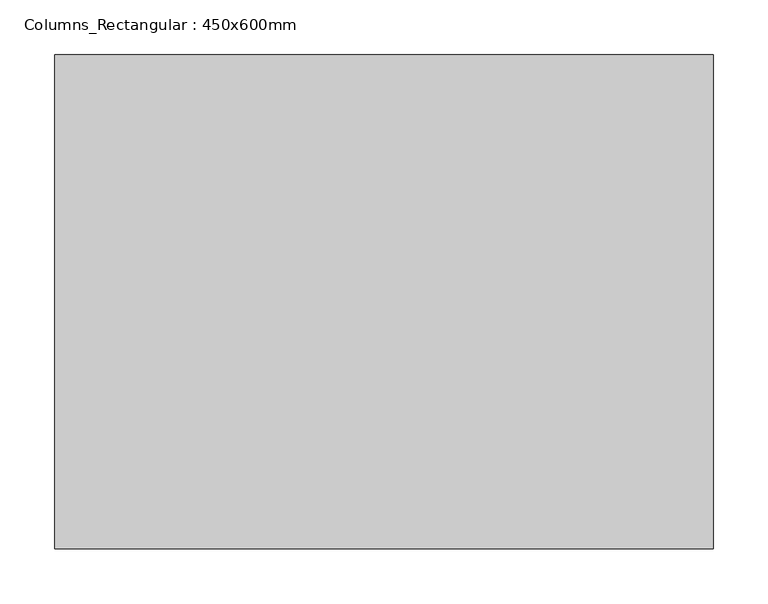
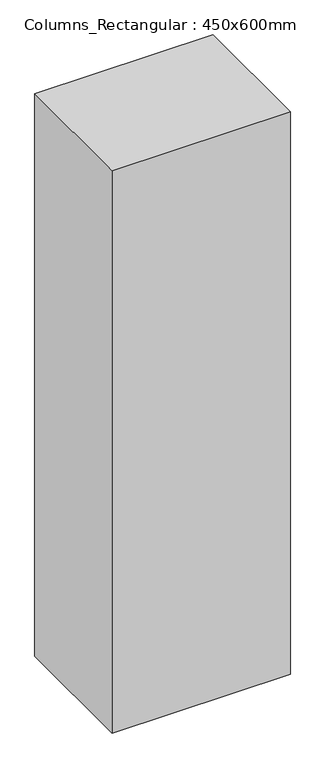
"""IFC4 building model written with IfcOpenShell, lengths in millimetres: column geometry, Columns_Rectangular : 450x600mm."""

from ifc_helpers import new_model, si_unit, origin, origin_with_axes, place, context, project, spatial, polyline, outline, extrude, source, transform, mapped, element, save


def columns_rectangular_450x600mm_2512dfd8(model_context):
    return source(origin(), model_context, "Body", "SweptSolid", [
        extrude(outline(polyline([(300.0, 225.0), (300.0, -225.0), (-300.0, -225.0), (-300.0, 225.0), (300.0, 225.0)])), origin_with_axes(), (0.0, 0.0, 1.0), 2000.0),
    ])


if __name__ == "__main__":
    model = new_model("IFC4")
    model_context = context("Model", 3, world=origin())
    ifc_project = project(units=[si_unit("LENGTHUNIT", "METRE", prefix="MILLI")], contexts=[model_context])
    site = spatial("IfcSite", under=ifc_project)
    building = spatial("IfcBuilding", under=site)
    placement = place(None, origin())
    columns_rectangular_450x600mm_shape = columns_rectangular_450x600mm_2512dfd8(model_context)
    element("IfcColumn", 1, ObjectType="Columns_Rectangular : 450x600mm", at=placement, inside=building, context=model_context, shape_type="MappedRepresentation", body=[
        mapped(columns_rectangular_450x600mm_shape, transform((0.0, 0.0, 0.0), x_axis=(1.0, 0.0, 0.0), y_axis=(0.0, 1.0, 0.0), z_axis=(0.0, 0.0, 1.0))),
    ])
    save(model, "model.ifc")
